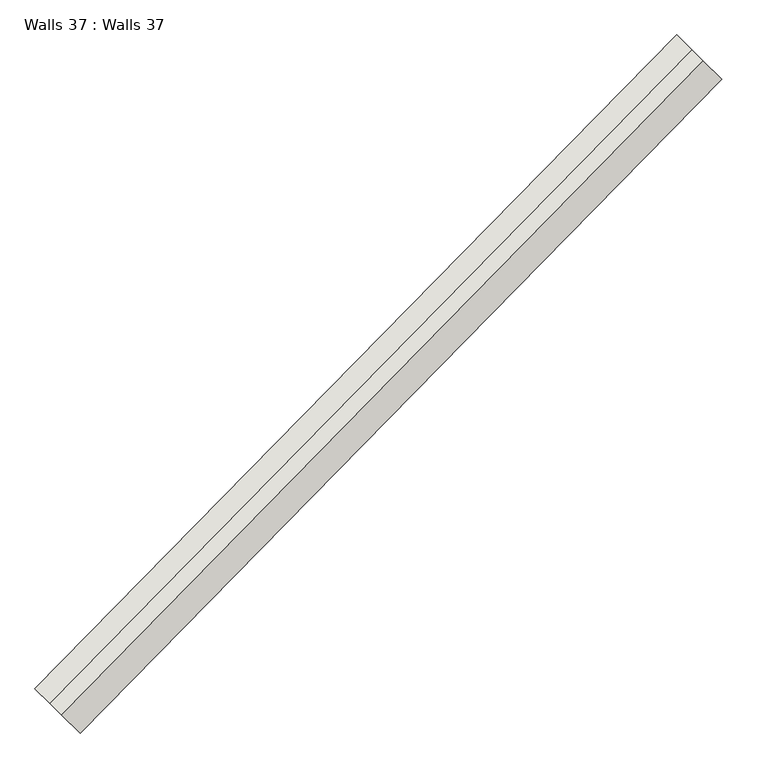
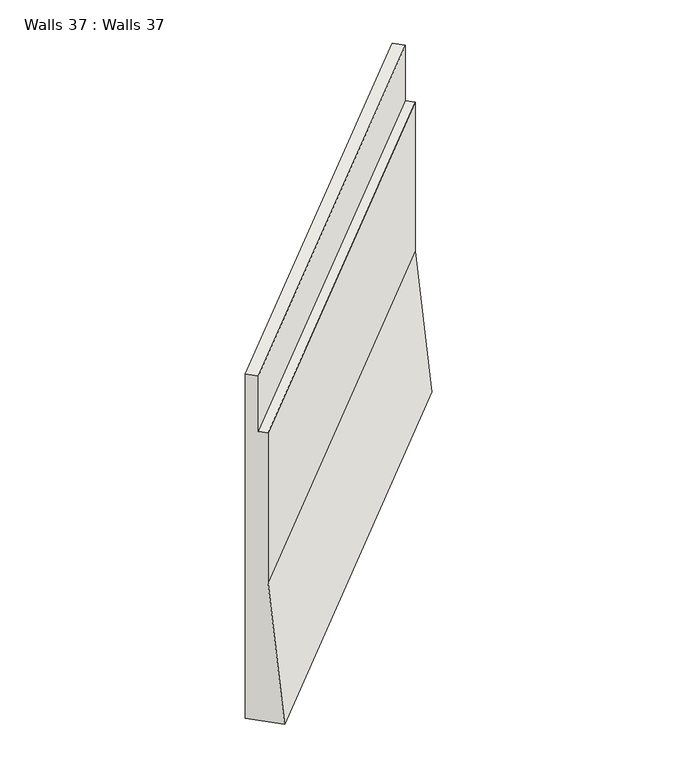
"""IFC4 building model written with IfcOpenShell, lengths in millimetres: wall geometry, Walls 37 : Walls 37."""

from ifc_helpers import new_model, si_unit, origin, place, context, project, spatial, faceted_brep, source, transform, mapped, element, save


def walls_37_walls_37_e8c7404e(model_context):
    return source(origin(), model_context, "Body", "Brep", [
        faceted_brep([(-166047.7485653, -325409.9271058, 636400.0), (-166226.1844012, -325234.8216813, 638900.0), (-166226.1844012, -325234.8216813, 641610.0), (-166333.2445918, -325129.7597133, 641610.0), (-166333.2445918, -325129.7597133, 642610.0), (-166475.9915125, -324989.6770892, 642610.0), (-166475.9915125, -324989.6770892, 636400.0), (-159954.1410836, -319200.4224676, 636490.0), (-160382.3840308, -318780.172451, 636490.0), (-160382.3840308, -318780.172451, 642680.0), (-160239.6371101, -318920.2550751, 642680.0), (-160239.6371101, -318920.2550751, 641680.0), (-160132.5769196, -319025.3170432, 641680.0), (-160132.5769196, -319025.3170432, 638990.0)], [[[0, 1, 2, 3, 4, 5, 6]], [[7, 8, 9, 10, 11, 12, 13]], [[7, 13, 1, 0]], [[13, 12, 2, 1]], [[12, 11, 3, 2]], [[11, 10, 4, 3]], [[10, 9, 5, 4]], [[9, 8, 6, 5]], [[8, 7, 0, 6]]]),
    ])


if __name__ == "__main__":
    model = new_model("IFC4")
    model_context = context("Model", 3, world=origin())
    ifc_project = project(units=[si_unit("LENGTHUNIT", "METRE", prefix="MILLI")], contexts=[model_context])
    site = spatial("IfcSite", under=ifc_project)
    building = spatial("IfcBuilding", under=site)
    placement = place(None, origin())
    walls_37_walls_37_shape = walls_37_walls_37_e8c7404e(model_context)
    element("IfcWall", 1, ObjectType="Walls 37 : Walls 37", at=placement, inside=building, context=model_context, shape_type="MappedRepresentation", body=[
        mapped(walls_37_walls_37_shape, transform((0.0, 0.0, 0.0), x_axis=(1.0, 0.0, 0.0), y_axis=(0.0, 1.0, 0.0), z_axis=(0.0, 0.0, 1.0))),
    ])
    save(model, "model.ifc")
